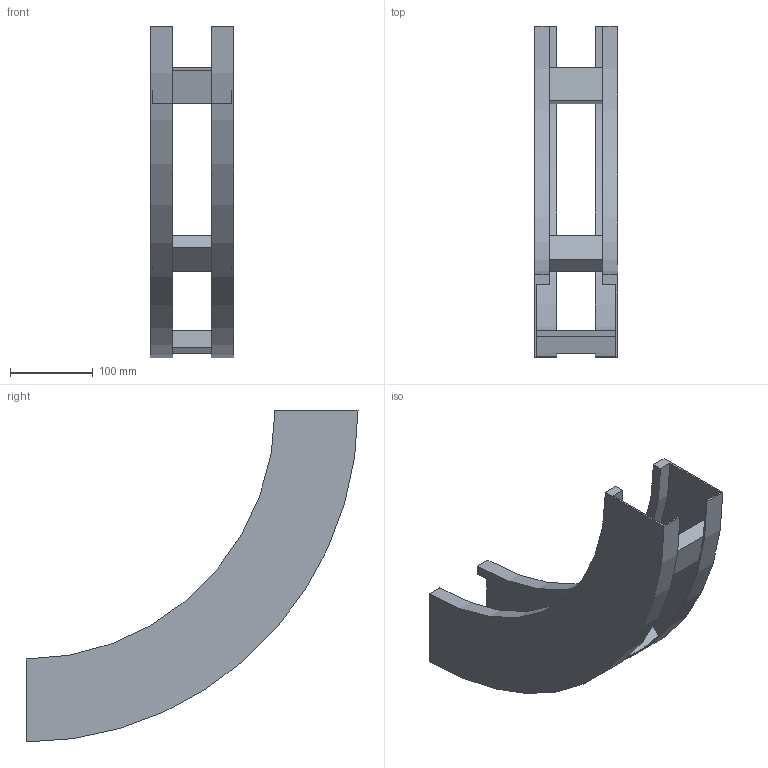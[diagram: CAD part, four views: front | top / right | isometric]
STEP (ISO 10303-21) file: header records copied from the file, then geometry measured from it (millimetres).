
FILE_DESCRIPTION (( 'STEP AP214' ), '1' );
FILE_NAME ('B2X30B3D100XX.step', '2025-03-20T10:20:02', ( '' ), ( '' ), 'SwSTEP 2.0', 'SolidWorks 2023', '' );
FILE_SCHEMA (( 'AUTOMOTIVE_DESIGN' ));
Length unit declared in the file: millimetre
Products named in the file (3): B2X30B3D100XX; B2_LONGH.SALITA_90°_H100_R300; TRAVERSINO_100
Assembly tree (5 placements, depth 2):
  B2X30B3D100XX
    B2_LONGH.SALITA_90°_H100_R300  x2
    TRAVERSINO_100  x3
Bounding box: 100 x 400 x 400 mm (x, y, z)
Volume: 700441.1 mm3; surface area: 359223 mm2
Topology: 5 solids, 5 shells, 38 faces, 84 edges, 56 vertices
Faces by surface type: plane 30, cylinder 8
Entity records: 560 total; most frequent: DIRECTION 92, CARTESIAN_POINT 84, ORIENTED_EDGE 72, EDGE_CURVE 36, AXIS2_PLACEMENT_3D 32, VECTOR 28, LINE 28, VERTEX_POINT 24
